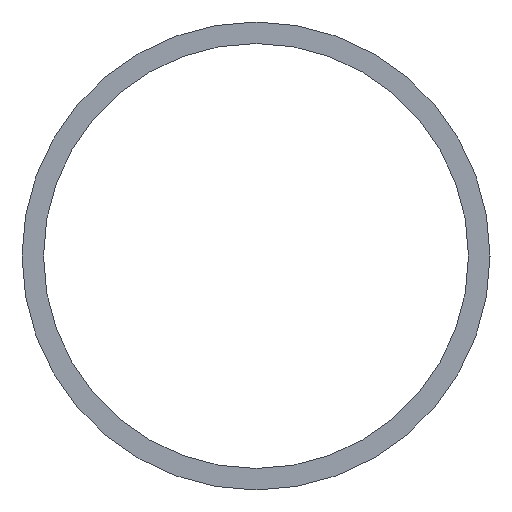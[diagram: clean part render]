
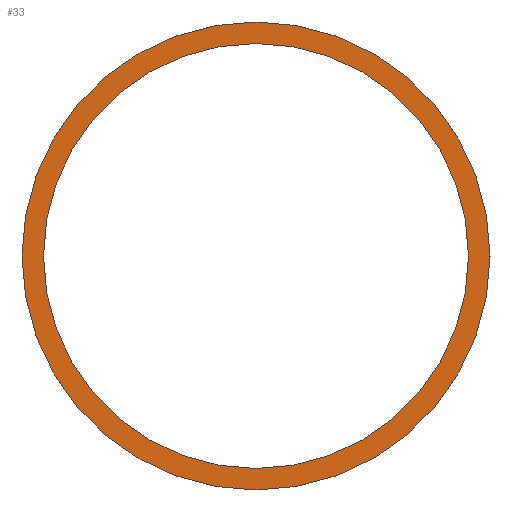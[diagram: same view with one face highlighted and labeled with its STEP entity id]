
A CAD part, left-side view. The second image highlights one B-rep face of the part: STEP entity #33.
In plain terms, the highlighted planar face has unit normal (-1, 0, 0).
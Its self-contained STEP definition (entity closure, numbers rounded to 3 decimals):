
#27=FACE_BOUND('',#45,.F.);
#29=PLANE('',#135);
#33=ADVANCED_FACE('',(#27,#39),#29,.T.);
#39=FACE_OUTER_BOUND('',#46,.F.);
#45=EDGE_LOOP('',(#59,#60));
#46=EDGE_LOOP('',(#61,#62));
#59=ORIENTED_EDGE('',*,*,#103,.T.);
#60=ORIENTED_EDGE('',*,*,#95,.T.);
#61=ORIENTED_EDGE('',*,*,#106,.F.);
#62=ORIENTED_EDGE('',*,*,#98,.F.);
#95=EDGE_CURVE('',#122,#121,#107,.T.);
#98=EDGE_CURVE('',#116,#115,#110,.T.);
#103=EDGE_CURVE('',#121,#122,#111,.T.);
#106=EDGE_CURVE('',#115,#116,#114,.T.);
#107=CIRCLE('',#125,27.394);
#110=CIRCLE('',#128,30.163);
#111=CIRCLE('',#129,27.394);
#114=CIRCLE('',#132,30.163);
#115=VERTEX_POINT('',#177);
#116=VERTEX_POINT('',#178);
#121=VERTEX_POINT('',#183);
#122=VERTEX_POINT('',#184);
#125=AXIS2_PLACEMENT_3D('',#185,#142,#143);
#128=AXIS2_PLACEMENT_3D('',#188,#148,#149);
#129=AXIS2_PLACEMENT_3D('',#193,#154,#155);
#132=AXIS2_PLACEMENT_3D('',#196,#160,#161);
#135=AXIS2_PLACEMENT_3D('',#199,#166,#167);
#142=DIRECTION('',(-1.,0.,0.));
#143=DIRECTION('',(0.,1.,0.));
#148=DIRECTION('',(-1.,0.,0.));
#149=DIRECTION('',(0.,1.,0.));
#154=DIRECTION('',(-1.,0.,0.));
#155=DIRECTION('',(0.,-1.,0.));
#160=DIRECTION('',(-1.,0.,0.));
#161=DIRECTION('',(0.,-1.,0.));
#166=DIRECTION('',(-1.,0.,0.));
#167=DIRECTION('',(0.,0.,1.));
#177=CARTESIAN_POINT('',(-1766.712,-5050.51,2770.991));
#178=CARTESIAN_POINT('',(-1766.712,-4990.185,2770.991));
#183=CARTESIAN_POINT('',(-1766.712,-5047.742,2770.991));
#184=CARTESIAN_POINT('',(-1766.712,-4992.954,2770.991));
#185=CARTESIAN_POINT('',(-1766.712,-5020.348,2770.991));
#188=CARTESIAN_POINT('',(-1766.712,-5020.348,2770.991));
#193=CARTESIAN_POINT('',(-1766.712,-5020.348,2770.991));
#196=CARTESIAN_POINT('',(-1766.712,-5020.348,2770.991));
#199=CARTESIAN_POINT('',(-1766.712,-5051.113,2740.225));
